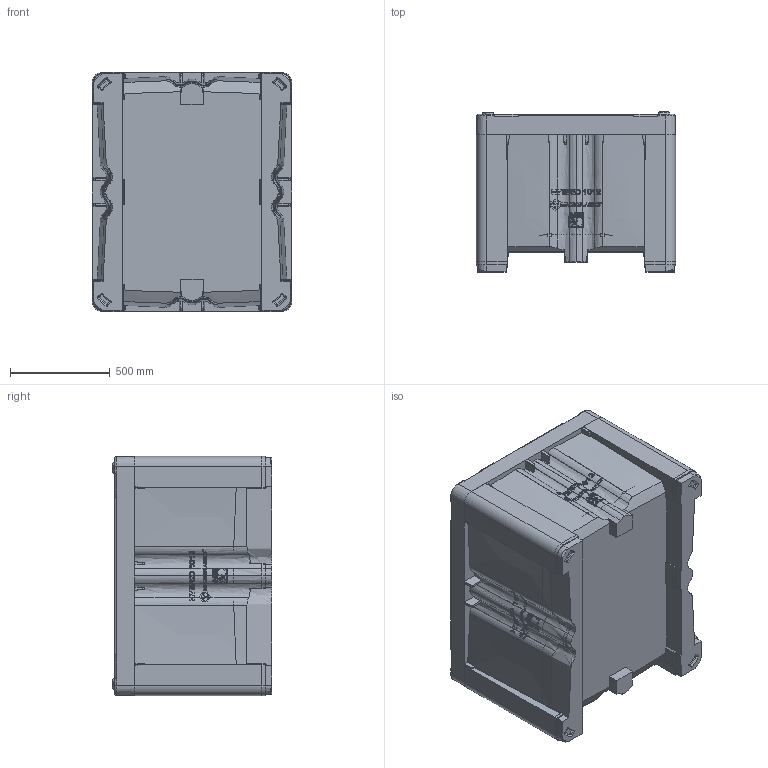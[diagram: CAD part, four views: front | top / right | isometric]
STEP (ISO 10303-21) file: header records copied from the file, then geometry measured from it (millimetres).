
FILE_DESCRIPTION (( 'STEP AP214' ), '1' );
FILE_NAME ('1110xxxxxxxx 1012-790 Hybrid Block LongFoot 2way.STEP', '2018-08-24T21:03:08', ( '' ), ( '' ), 'SwSTEP 2.0', 'SolidWorks 2018', '' );
FILE_SCHEMA (( 'AUTOMOTIVE_DESIGN' ));
Length unit declared in the file: millimetre
Products named in the file (1): 1110xxxxxxxx 1012-790 Hybrid Block LongFoot 2way
Bounding box: 1000 x 802.5 x 1200 mm (x, y, z)
Volume: 122194988.3 mm3; surface area: 10273710.2 mm2
Topology: 7 solids, 7 shells, 6191 faces, 17022 edges, 11319 vertices
Faces by surface type: plane 3037, bspline 2660, cylinder 464, sphere 18, cone 8, torus 4
Entity records: 336963 total; most frequent: CARTESIAN_POINT 206890, ORIENTED_EDGE 33996, EDGE_CURVE 16998, DIRECTION 14406, VERTEX_POINT 11315, B_SPLINE_CURVE_WITH_KNOTS 9760, LINE 7022, VECTOR 7022
